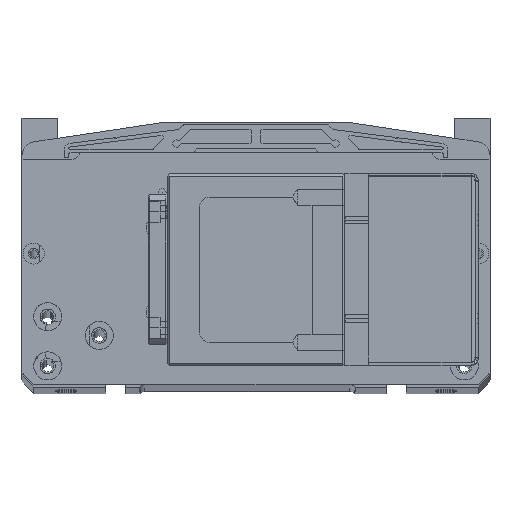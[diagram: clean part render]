
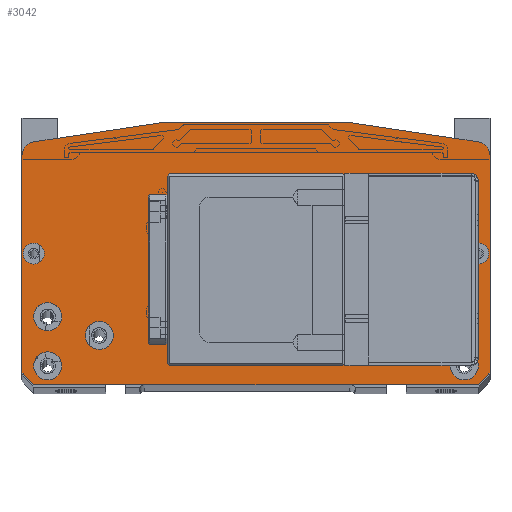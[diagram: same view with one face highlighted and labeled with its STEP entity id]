
A CAD part, top view. The second image highlights one B-rep face of the part: STEP entity #3042.
In plain terms, the highlighted planar face has unit normal (0, 0, 1).
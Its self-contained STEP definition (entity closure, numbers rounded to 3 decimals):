
#592=FACE_BOUND('',#5537,.T.);
#593=FACE_BOUND('',#5538,.T.);
#594=FACE_BOUND('',#5539,.T.);
#595=FACE_BOUND('',#5540,.T.);
#596=FACE_BOUND('',#5541,.T.);
#597=FACE_BOUND('',#5542,.T.);
#598=FACE_BOUND('',#5543,.T.);
#599=FACE_BOUND('',#5544,.T.);
#600=FACE_BOUND('',#5545,.T.);
#601=FACE_BOUND('',#5546,.T.);
#602=FACE_BOUND('',#5547,.T.);
#603=FACE_BOUND('',#5548,.T.);
#604=FACE_BOUND('',#5549,.T.);
#1277=PLANE('',#20354);
#2018=CIRCLE('',#20236,1.65);
#2033=CIRCLE('',#20265,1.65);
#2038=CIRCLE('',#20279,6.);
#2045=CIRCLE('',#20293,6.);
#2046=CIRCLE('',#20296,4.5);
#2050=CIRCLE('',#20303,4.5);
#2054=CIRCLE('',#20310,6.);
#2058=CIRCLE('',#20317,6.);
#2062=CIRCLE('',#20324,6.);
#2066=CIRCLE('',#20331,6.);
#2070=CIRCLE('',#20338,6.);
#2074=CIRCLE('',#20345,6.);
#3042=ADVANCED_FACE('',(#592,#593,#594,#595,#596,#597,#598,#599,#600,#601,
#602,#603,#604),#1277,.F.);
#5537=EDGE_LOOP('',(#12460,#12461,#12462,#12463));
#5538=EDGE_LOOP('',(#12464,#12465,#12466,#12467));
#5539=EDGE_LOOP('',(#12468));
#5540=EDGE_LOOP('',(#12469));
#5541=EDGE_LOOP('',(#12470,#12471,#12472,#12473,#12474,#12475,#12476,#12477,
#12478,#12479));
#5542=EDGE_LOOP('',(#12480));
#5543=EDGE_LOOP('',(#12481));
#5544=EDGE_LOOP('',(#12482));
#5545=EDGE_LOOP('',(#12483));
#5546=EDGE_LOOP('',(#12484));
#5547=EDGE_LOOP('',(#12485));
#5548=EDGE_LOOP('',(#12486));
#5549=EDGE_LOOP('',(#12487));
#6322=LINE('',#29243,#7773);
#6518=LINE('',#30368,#7969);
#6538=LINE('',#30413,#7989);
#7143=LINE('',#34420,#8594);
#7147=LINE('',#34428,#8598);
#7150=LINE('',#34434,#8601);
#7170=LINE('',#34470,#8621);
#7190=LINE('',#34642,#8641);
#7192=LINE('',#34645,#8643);
#7198=LINE('',#34658,#8649);
#7201=LINE('',#34664,#8652);
#7214=LINE('',#34700,#8665);
#7216=LINE('',#34785,#8667);
#7217=LINE('',#34788,#8668);
#7218=LINE('',#34790,#8669);
#7219=LINE('',#34792,#8670);
#7773=VECTOR('',#21791,1.);
#7969=VECTOR('',#22255,1.);
#7989=VECTOR('',#22305,1.);
#8594=VECTOR('',#24358,1.);
#8598=VECTOR('',#24364,1.);
#8601=VECTOR('',#24369,1.);
#8621=VECTOR('',#24401,1.);
#8641=VECTOR('',#24617,1.);
#8643=VECTOR('',#24621,1.);
#8649=VECTOR('',#24629,1.);
#8652=VECTOR('',#24634,1.);
#8665=VECTOR('',#24681,1.);
#8667=VECTOR('',#24801,1.);
#8668=VECTOR('',#24802,1.);
#8669=VECTOR('',#24803,1.);
#8670=VECTOR('',#24804,1.);
#12460=ORIENTED_EDGE('',*,*,#18138,.F.);
#12461=ORIENTED_EDGE('',*,*,#18139,.F.);
#12462=ORIENTED_EDGE('',*,*,#18140,.T.);
#12463=ORIENTED_EDGE('',*,*,#18141,.T.);
#12464=ORIENTED_EDGE('',*,*,#17981,.T.);
#12465=ORIENTED_EDGE('',*,*,#17984,.T.);
#12466=ORIENTED_EDGE('',*,*,#18004,.T.);
#12467=ORIENTED_EDGE('',*,*,#17977,.T.);
#12468=ORIENTED_EDGE('',*,*,#18039,.T.);
#12469=ORIENTED_EDGE('',*,*,#18067,.T.);
#12470=ORIENTED_EDGE('',*,*,#18072,.F.);
#12471=ORIENTED_EDGE('',*,*,#16914,.T.);
#12472=ORIENTED_EDGE('',*,*,#18104,.F.);
#12473=ORIENTED_EDGE('',*,*,#16938,.T.);
#12474=ORIENTED_EDGE('',*,*,#18103,.F.);
#12475=ORIENTED_EDGE('',*,*,#18074,.F.);
#12476=ORIENTED_EDGE('',*,*,#18080,.T.);
#12477=ORIENTED_EDGE('',*,*,#18083,.F.);
#12478=ORIENTED_EDGE('',*,*,#18084,.F.);
#12479=ORIENTED_EDGE('',*,*,#16624,.T.);
#12480=ORIENTED_EDGE('',*,*,#18134,.T.);
#12481=ORIENTED_EDGE('',*,*,#18130,.T.);
#12482=ORIENTED_EDGE('',*,*,#18126,.T.);
#12483=ORIENTED_EDGE('',*,*,#18122,.T.);
#12484=ORIENTED_EDGE('',*,*,#18118,.T.);
#12485=ORIENTED_EDGE('',*,*,#18114,.T.);
#12486=ORIENTED_EDGE('',*,*,#18110,.T.);
#12487=ORIENTED_EDGE('',*,*,#18106,.T.);
#14691=VERTEX_POINT('',#29242);
#14692=VERTEX_POINT('',#29244);
#14868=VERTEX_POINT('',#30367);
#14869=VERTEX_POINT('',#30369);
#14878=VERTEX_POINT('',#30412);
#14879=VERTEX_POINT('',#30414);
#15561=VERTEX_POINT('',#34410);
#15565=VERTEX_POINT('',#34419);
#15568=VERTEX_POINT('',#34427);
#15570=VERTEX_POINT('',#34433);
#15611=VERTEX_POINT('',#34567);
#15628=VERTEX_POINT('',#34626);
#15635=VERTEX_POINT('',#34646);
#15636=VERTEX_POINT('',#34647);
#15640=VERTEX_POINT('',#34657);
#15642=VERTEX_POINT('',#34663);
#15649=VERTEX_POINT('',#34704);
#15652=VERTEX_POINT('',#34714);
#15655=VERTEX_POINT('',#34724);
#15658=VERTEX_POINT('',#34734);
#15661=VERTEX_POINT('',#34744);
#15664=VERTEX_POINT('',#34754);
#15667=VERTEX_POINT('',#34764);
#15670=VERTEX_POINT('',#34774);
#15673=VERTEX_POINT('',#34786);
#15674=VERTEX_POINT('',#34787);
#15675=VERTEX_POINT('',#34789);
#15676=VERTEX_POINT('',#34791);
#16624=EDGE_CURVE('',#14692,#14691,#6322,.T.);
#16914=EDGE_CURVE('',#14869,#14868,#6518,.T.);
#16938=EDGE_CURVE('',#14879,#14878,#6538,.T.);
#17977=EDGE_CURVE('',#15561,#15565,#7143,.T.);
#17981=EDGE_CURVE('',#15565,#15568,#7147,.T.);
#17984=EDGE_CURVE('',#15568,#15570,#7150,.T.);
#18004=EDGE_CURVE('',#15570,#15561,#7170,.T.);
#18039=EDGE_CURVE('',#15611,#15611,#2018,.T.);
#18067=EDGE_CURVE('',#15628,#15628,#2033,.T.);
#18072=EDGE_CURVE('',#14869,#14691,#7190,.T.);
#18074=EDGE_CURVE('',#15635,#15636,#7192,.T.);
#18080=EDGE_CURVE('',#15635,#15640,#7198,.T.);
#18083=EDGE_CURVE('',#15642,#15640,#7201,.T.);
#18084=EDGE_CURVE('',#14692,#15642,#2038,.T.);
#18103=EDGE_CURVE('',#15636,#14878,#2045,.T.);
#18104=EDGE_CURVE('',#14879,#14868,#7214,.T.);
#18106=EDGE_CURVE('',#15649,#15649,#2046,.T.);
#18110=EDGE_CURVE('',#15652,#15652,#2050,.T.);
#18114=EDGE_CURVE('',#15655,#15655,#2054,.T.);
#18118=EDGE_CURVE('',#15658,#15658,#2058,.T.);
#18122=EDGE_CURVE('',#15661,#15661,#2062,.T.);
#18126=EDGE_CURVE('',#15664,#15664,#2066,.T.);
#18130=EDGE_CURVE('',#15667,#15667,#2070,.T.);
#18134=EDGE_CURVE('',#15670,#15670,#2074,.T.);
#18138=EDGE_CURVE('',#15673,#15674,#7216,.T.);
#18139=EDGE_CURVE('',#15675,#15673,#7217,.T.);
#18140=EDGE_CURVE('',#15675,#15676,#7218,.T.);
#18141=EDGE_CURVE('',#15676,#15674,#7219,.T.);
#20236=AXIS2_PLACEMENT_3D('',#34566,#24526,#24527);
#20265=AXIS2_PLACEMENT_3D('',#34625,#24597,#24598);
#20279=AXIS2_PLACEMENT_3D('',#34666,#24637,#24638);
#20293=AXIS2_PLACEMENT_3D('',#34698,#24677,#24678);
#20296=AXIS2_PLACEMENT_3D('',#34703,#24685,#24686);
#20303=AXIS2_PLACEMENT_3D('',#34713,#24699,#24700);
#20310=AXIS2_PLACEMENT_3D('',#34723,#24713,#24714);
#20317=AXIS2_PLACEMENT_3D('',#34733,#24727,#24728);
#20324=AXIS2_PLACEMENT_3D('',#34743,#24741,#24742);
#20331=AXIS2_PLACEMENT_3D('',#34753,#24755,#24756);
#20338=AXIS2_PLACEMENT_3D('',#34763,#24769,#24770);
#20345=AXIS2_PLACEMENT_3D('',#34773,#24783,#24784);
#20354=AXIS2_PLACEMENT_3D('',#34793,#24805,#24806);
#21791=DIRECTION('',(0.,-1.,0.));
#22255=DIRECTION('',(1.,0.,0.));
#22305=DIRECTION('',(0.,1.,0.));
#24358=DIRECTION('',(0.,1.,0.));
#24364=DIRECTION('',(1.,0.,0.));
#24369=DIRECTION('',(0.,-1.,0.));
#24401=DIRECTION('',(-1.,0.,0.));
#24526=DIRECTION('',(0.,0.,-1.));
#24527=DIRECTION('',(1.,0.,0.));
#24597=DIRECTION('',(0.,0.,-1.));
#24598=DIRECTION('',(1.,0.,0.));
#24617=DIRECTION('',(-0.707,0.707,0.));
#24621=DIRECTION('',(0.989,-0.148,0.));
#24629=DIRECTION('',(-1.,0.,0.));
#24634=DIRECTION('',(0.989,0.148,0.));
#24637=DIRECTION('',(0.,0.,-1.));
#24638=DIRECTION('',(-1.,0.,0.));
#24677=DIRECTION('',(0.,0.,-1.));
#24678=DIRECTION('',(0.148,0.989,0.));
#24681=DIRECTION('',(-0.707,-0.707,0.));
#24685=DIRECTION('',(0.,0.,-1.));
#24686=DIRECTION('',(1.,0.,0.));
#24699=DIRECTION('',(0.,0.,-1.));
#24700=DIRECTION('',(1.,0.,0.));
#24713=DIRECTION('',(0.,0.,-1.));
#24714=DIRECTION('',(1.,0.,0.));
#24727=DIRECTION('',(0.,0.,-1.));
#24728=DIRECTION('',(1.,0.,0.));
#24741=DIRECTION('',(0.,0.,-1.));
#24742=DIRECTION('',(1.,0.,0.));
#24755=DIRECTION('',(0.,0.,-1.));
#24756=DIRECTION('',(1.,0.,0.));
#24769=DIRECTION('',(0.,0.,-1.));
#24770=DIRECTION('',(1.,0.,0.));
#24783=DIRECTION('',(0.,0.,-1.));
#24784=DIRECTION('',(1.,0.,0.));
#24801=DIRECTION('',(1.,0.,0.));
#24802=DIRECTION('',(0.,-1.,0.));
#24803=DIRECTION('',(1.,0.,0.));
#24804=DIRECTION('',(0.,-1.,0.));
#24805=DIRECTION('',(0.,0.,-1.));
#24806=DIRECTION('',(-1.,0.,0.));
#29242=CARTESIAN_POINT('',(-100.,7.,463.));
#29243=CARTESIAN_POINT('',(-100.,99.833,463.));
#29244=CARTESIAN_POINT('',(-100.,99.833,463.));
#30367=CARTESIAN_POINT('',(95.,2.,463.));
#30368=CARTESIAN_POINT('',(67.5,2.,463.));
#30369=CARTESIAN_POINT('',(-95.,2.,463.));
#30412=CARTESIAN_POINT('',(100.,99.833,463.));
#30413=CARTESIAN_POINT('',(100.,7.,463.));
#30414=CARTESIAN_POINT('',(100.,7.,463.));
#34410=CARTESIAN_POINT('',(-37.,11.,463.));
#34419=CARTESIAN_POINT('',(-37.,91.,463.));
#34420=CARTESIAN_POINT('',(-37.,11.,463.));
#34427=CARTESIAN_POINT('',(37.,91.,463.));
#34428=CARTESIAN_POINT('',(-37.,91.,463.));
#34433=CARTESIAN_POINT('',(37.,11.,463.));
#34434=CARTESIAN_POINT('',(37.,91.,463.));
#34470=CARTESIAN_POINT('',(37.,11.,463.));
#34566=CARTESIAN_POINT('',(42.,69.,463.));
#34567=CARTESIAN_POINT('',(43.65,69.,463.));
#34625=CARTESIAN_POINT('',(42.,33.,463.));
#34626=CARTESIAN_POINT('',(43.65,33.,463.));
#34642=CARTESIAN_POINT('',(-95.,2.,463.));
#34645=CARTESIAN_POINT('',(40.,114.,463.));
#34646=CARTESIAN_POINT('',(40.,114.,463.));
#34647=CARTESIAN_POINT('',(94.89,105.766,463.));
#34657=CARTESIAN_POINT('',(-40.,114.,463.));
#34658=CARTESIAN_POINT('',(40.,114.,463.));
#34663=CARTESIAN_POINT('',(-94.89,105.766,463.));
#34664=CARTESIAN_POINT('',(-94.89,105.766,463.));
#34666=CARTESIAN_POINT('',(-94.,99.833,463.));
#34698=CARTESIAN_POINT('',(94.,99.833,463.));
#34700=CARTESIAN_POINT('',(100.,7.,463.));
#34703=CARTESIAN_POINT('',(-95.,58.,463.));
#34704=CARTESIAN_POINT('',(-90.5,58.,463.));
#34713=CARTESIAN_POINT('',(95.,58.,463.));
#34714=CARTESIAN_POINT('',(99.5,58.,463.));
#34723=CARTESIAN_POINT('',(-67.,23.,463.));
#34724=CARTESIAN_POINT('',(-61.,23.,463.));
#34733=CARTESIAN_POINT('',(67.,23.,463.));
#34734=CARTESIAN_POINT('',(73.,23.,463.));
#34743=CARTESIAN_POINT('',(-89.,31.,463.));
#34744=CARTESIAN_POINT('',(-83.,31.,463.));
#34753=CARTESIAN_POINT('',(89.,31.,463.));
#34754=CARTESIAN_POINT('',(95.,31.,463.));
#34763=CARTESIAN_POINT('',(-89.,10.,463.));
#34764=CARTESIAN_POINT('',(-83.,10.,463.));
#34773=CARTESIAN_POINT('',(89.,10.,463.));
#34774=CARTESIAN_POINT('',(95.,10.,463.));
#34785=CARTESIAN_POINT('',(-45.5,21.534,463.));
#34786=CARTESIAN_POINT('',(-45.5,21.534,463.));
#34787=CARTESIAN_POINT('',(-38.5,21.534,463.));
#34788=CARTESIAN_POINT('',(-45.5,80.466,463.));
#34789=CARTESIAN_POINT('',(-45.5,80.466,463.));
#34790=CARTESIAN_POINT('',(-45.5,80.466,463.));
#34791=CARTESIAN_POINT('',(-38.5,80.466,463.));
#34792=CARTESIAN_POINT('',(-38.5,80.466,463.));
#34793=CARTESIAN_POINT('',(0.,2.,463.));
